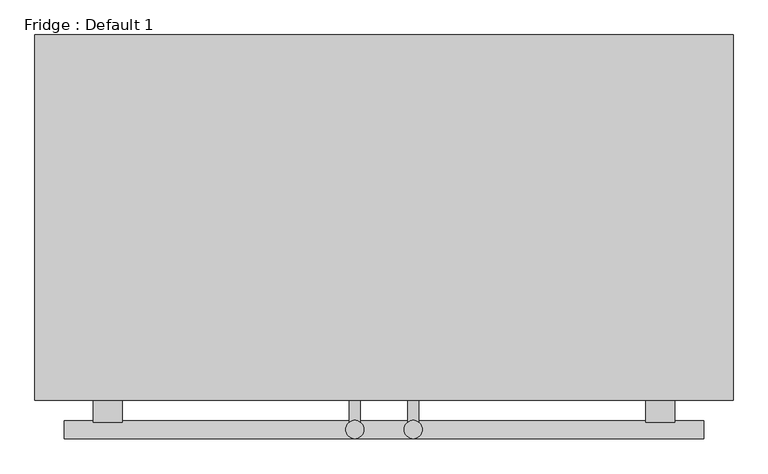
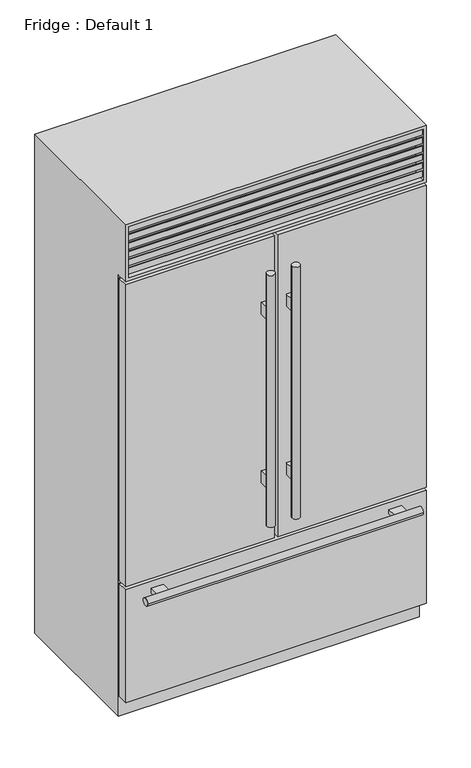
"""IFC4 building model written with IfcOpenShell, lengths in millimetres: proxy geometry, Fridge : Default 1."""

import ifcopenshell
import ifcopenshell.guid

model = None  # the IFC model being written
_history = None  # IfcOwnerHistory: only IFC2X3 demands one
_inside = {}  # id of a spatial element -> (the spatial element, [elements in it])
_under = {}  # id of a project, library or spatial element -> (it, [spatial elements below it])
_declared = {}  # id of a project -> (the project, [libraries it declares])
_typed = {}  # id of a type object -> (the type object, [elements of that type])
_made_of = {}  # id of a material, layer set ... -> (it, [elements and type objects made of it])


def new_model(schema):
    """Start an empty IFC model of exactly this schema.

    Asked for "IFC4X3", IfcOpenShell would pick the latest addendum, in which some entities
    have other attributes; the version numbers below select the first issue.
    IFC2X3 requires an IfcOwnerHistory on every rooted entity: one is made here for all.
    """
    global model, _history
    if schema == "IFC4X3":
        model = ifcopenshell.file(schema_version=(4, 3, 0, 0))
    else:
        model = ifcopenshell.file(schema=schema)
    _inside.clear()
    _under.clear()
    _declared.clear()
    _typed.clear()
    _made_of.clear()
    _history = None
    if model.schema == "IFC2X3":
        org = make("IfcOrganization", Name="unknown")
        user = make(
            "IfcPersonAndOrganization",
            ThePerson=make("IfcPerson", FamilyName="unknown"),
            TheOrganization=org,
        )
        app = make(
            "IfcApplication",
            ApplicationDeveloper=org,
            Version="unknown",
            ApplicationFullName="unknown",
            ApplicationIdentifier="unknown",
        )
        _history = make(
            "IfcOwnerHistory",
            OwningUser=user,
            OwningApplication=app,
            ChangeAction="ADDED",
            CreationDate=0,
        )
    return model


def make(cls, **values):
    """One entity of the class cls with the attributes given. An attribute that is None is left unset."""
    return model.create_entity(
        cls, **{name: value for name, value in values.items() if value is not None}
    )


def rooted(cls, **values):
    """An entity with a GlobalId (a new one), such as an element, a storey or a relation."""
    return make(cls, GlobalId=ifcopenshell.guid.new(), OwnerHistory=_history, **values)


def si_unit(unit_type, name, prefix=None):
    """IfcSIUnit, for example si_unit("LENGTHUNIT", "METRE", prefix="MILLI")."""
    return make("IfcSIUnit", UnitType=unit_type, Prefix=prefix, Name=name)


def assignment(units):
    """IfcUnitAssignment: the units of a project."""
    return None if units is None else make("IfcUnitAssignment", Units=units)


def point(xyz):
    """IfcCartesianPoint."""
    return None if xyz is None else make("IfcCartesianPoint", Coordinates=xyz)


def direction(xyz):
    """IfcDirection."""
    return None if xyz is None else make("IfcDirection", DirectionRatios=xyz)


def frame(location, z_axis=None, x_axis=None):
    """IfcAxis2Placement3D, a coordinate frame: its origin and axes. An axis left out is left unset."""
    return make(
        "IfcAxis2Placement3D",
        Location=point(location),
        Axis=direction(z_axis),
        RefDirection=direction(x_axis),
    )


def origin():
    """The frame at (0, 0, 0) with its axes left unset."""
    return frame((0.0, 0.0, 0.0))


def place(relative_to, where):
    """IfcLocalPlacement: puts the frame where relative to a parent placement (None: the world)."""
    return make(
        "IfcLocalPlacement", PlacementRelTo=relative_to, RelativePlacement=where
    )


def context(
    kind, dimensions, precision=None, world=None, true_north=None, identifier=None
):
    """IfcGeometricRepresentationContext, for example the 3D "Model" context."""
    return make(
        "IfcGeometricRepresentationContext",
        ContextIdentifier=identifier,
        ContextType=kind,
        CoordinateSpaceDimension=dimensions,
        Precision=precision,
        WorldCoordinateSystem=world,
        TrueNorth=true_north,
    )


def project(units=None, contexts=None):
    """IfcProject with its units and contexts."""
    return rooted(
        "IfcProject",
        Name="project",
        RepresentationContexts=contexts,
        UnitsInContext=assignment(units),
    )


def spatial(cls, under=None, at=None, **own):
    """A site, building, storey or space (cls), placed at a placement, below another one or the project."""
    s = rooted(cls, ObjectPlacement=at, **own)
    if under is not None:
        _under.setdefault(under.id(), (under, []))[1].append(s)
    return s


def polyline(points):
    """IfcPolyline through the points."""
    return make("IfcPolyline", Points=[point(p) for p in points])


def circle_curve(where, radius):
    """IfcCircle in the frame where."""
    return make("IfcCircle", Position=where, Radius=radius)


def ellipse_curve(where, semi_axis1, semi_axis2):
    """IfcEllipse in the frame where."""
    return make(
        "IfcEllipse", Position=where, SemiAxis1=semi_axis1, SemiAxis2=semi_axis2
    )


def outline(outer, holes=None, kind="AREA"):
    """IfcArbitraryClosedProfileDef: a profile drawn as a closed curve; with holes, ...WithVoids."""
    if holes is None:
        return make("IfcArbitraryClosedProfileDef", ProfileType=kind, OuterCurve=outer)
    return make(
        "IfcArbitraryProfileDefWithVoids",
        ProfileType=kind,
        OuterCurve=outer,
        InnerCurves=holes,
    )


def extrude(swept, where, along, depth):
    """IfcExtrudedAreaSolid: the profile swept, set in the frame where, extruded along a direction by depth."""
    return make(
        "IfcExtrudedAreaSolid",
        SweptArea=swept,
        Position=where,
        ExtrudedDirection=direction(along),
        Depth=depth,
    )


def faces_of(points, faces, orient=None, outer=None):
    """IfcFace entities. A face is a list of loops; a loop is a list of indices into points, from 0.

    orient and outer hold one flag for each loop. By default every Orientation is true, the
    first loop of a face is its IfcFaceOuterBound and the others are IfcFaceBound.
    """
    made = []
    for i, loops in enumerate(faces):
        bounds = []
        for j, loop in enumerate(loops):
            is_outer = j == 0 if outer is None else outer[i][j]
            bounds.append(
                make(
                    "IfcFaceOuterBound" if is_outer else "IfcFaceBound",
                    Bound=make("IfcPolyLoop", Polygon=[points[k] for k in loop]),
                    Orientation=True if orient is None else orient[i][j],
                )
            )
        made.append(make("IfcFace", Bounds=bounds))
    return made


def faceted_brep(points, faces, orient=None, outer=None, voids=None):
    """IfcFacetedBrep: a solid bounded by flat faces; with voids (closed shells), ...WithVoids."""
    shared = [point(p) for p in points]
    hull = make("IfcClosedShell", CfsFaces=faces_of(shared, faces, orient, outer))
    if voids is None:
        return make("IfcFacetedBrep", Outer=hull)
    return make(
        "IfcFacetedBrepWithVoids",
        Outer=hull,
        Voids=[
            make(cls, CfsFaces=faces_of(shared, fs, o, b)) for cls, fs, o, b in voids
        ],
    )


def shape(context_of_items, identifier, shape_type, items):
    """IfcShapeRepresentation: the items that make up one representation, for example the "Body"."""
    return make(
        "IfcShapeRepresentation",
        ContextOfItems=context_of_items,
        RepresentationIdentifier=identifier,
        RepresentationType=shape_type,
        Items=items,
    )


def source(mapping_origin, context_of_items, identifier, shape_type, items):
    """IfcRepresentationMap: a shape defined once, which mapped items show again and again."""
    return make(
        "IfcRepresentationMap",
        MappingOrigin=mapping_origin,
        MappedRepresentation=shape(context_of_items, identifier, shape_type, items),
    )


def transform(
    local_origin,
    x_axis=None,
    y_axis=None,
    z_axis=None,
    scale=None,
    scale2=None,
    scale3=None,
    uniform=True,
):
    """IfcCartesianTransformationOperator3D, or its non-uniform kind. x_axis, y_axis, z_axis: its Axis1, 2, 3."""
    if uniform:
        return make(
            "IfcCartesianTransformationOperator3D",
            Axis1=direction(x_axis),
            Axis2=direction(y_axis),
            LocalOrigin=point(local_origin),
            Scale=scale,
            Axis3=direction(z_axis),
        )
    return make(
        "IfcCartesianTransformationOperator3DnonUniform",
        Axis1=direction(x_axis),
        Axis2=direction(y_axis),
        LocalOrigin=point(local_origin),
        Scale=scale,
        Axis3=direction(z_axis),
        Scale2=scale2,
        Scale3=scale3,
    )


def mapped(mapping_source, mapping_target):
    """IfcMappedItem: shows the shape of a source again, moved by a transform."""
    return make(
        "IfcMappedItem", MappingSource=mapping_source, MappingTarget=mapping_target
    )


def made_of(thing, what):
    """Note that an element or type object is made of a material, layer set ...; save() writes the relation."""
    if what is not None:
        _made_of.setdefault(what.id(), (what, []))[1].append(thing)
    return thing


def element(
    cls,
    number,
    at=None,
    inside=None,
    cuts=None,
    type_object=None,
    material=None,
    context=None,
    identifier="Body",
    shape_type=None,
    held_by="IfcProductDefinitionShape",
    body=None,
    shapes=None,
    **own,
):
    """One element of the class cls, such as IfcWall. Its Tag is "e" and its number.

    at: its placement. inside: the storey or other place that contains it. cuts: it is an
    opening in that element (IfcRelVoidsElement). A single representation is given by context,
    identifier, shape_type and body (its items); several are given by shapes. held_by: the class
    of the entity that holds the representations. save() writes the other relations.
    """
    e = rooted(cls, Tag="e%d" % number, ObjectPlacement=at, **own)
    if body is not None:
        shapes = [shape(context, identifier, shape_type, body)]
    if shapes is not None:
        e.Representation = make(held_by, Representations=shapes)
    if inside is not None:
        _inside.setdefault(inside.id(), (inside, []))[1].append(e)
    if cuts is not None:
        rooted(
            "IfcRelVoidsElement", RelatingBuildingElement=cuts, RelatedOpeningElement=e
        )
    if type_object is not None:
        _typed.setdefault(type_object.id(), (type_object, []))[1].append(e)
    return made_of(e, material)


def aggregate(whole, parts):
    """IfcRelAggregates: a whole, such as a stair, and the parts it consists of."""
    return rooted("IfcRelAggregates", RelatingObject=whole, RelatedObjects=parts)


def save(model, path):
    """Write the relations noted so far, then the file.

    IfcRelAggregates (storeys below a building ...), IfcRelContainedInSpatialStructure (elements
    in a storey), IfcRelDefinesByType, IfcRelAssociatesMaterial and IfcRelDeclares: one each for
    every whole, place, type object, material and project.
    """
    for whole, parts in _under.values():
        aggregate(whole, parts)
    for where, things in _inside.values():
        rooted(
            "IfcRelContainedInSpatialStructure",
            RelatedElements=things,
            RelatingStructure=where,
        )
    for kind, things in _typed.values():
        rooted("IfcRelDefinesByType", RelatedObjects=things, RelatingType=kind)
    for what, things in _made_of.values():
        rooted("IfcRelAssociatesMaterial", RelatedObjects=things, RelatingMaterial=what)
    for by, libraries in _declared.values():
        rooted("IfcRelDeclares", RelatingContext=by, RelatedDefinitions=libraries)
    model.write(path)


def plane_surface(at):
    """IfcPlane: the flat surface through the origin of the frame at, square to its z axis."""
    return make("IfcPlane", Position=at)


def cylinder_surface(at, radius):
    """IfcCylindricalSurface: all points at the distance radius from the z axis of the frame at."""
    return make("IfcCylindricalSurface", Position=at, Radius=radius)


def advanced_brep(points, edges, surfaces, faces):
    """IfcAdvancedBrep: a solid bounded by faces that lie on surfaces and meet in shared edges.

    An edge is (start, end): straight between two places in points (the first is 0);
    or (start, end, curve); or (start, end, curve, False) where it runs against its curve.
    A face is (place in surfaces, loops), or (place, loops, False) where it looks against
    its surface's normal. A loop lists edges by number (the first is 1), with a minus sign
    where the edge is run from its end to its start. The first loop is the outer one.
    """
    corners = [point(p) for p in points]
    vertices = [make("IfcVertexPoint", VertexGeometry=c) for c in corners]
    made = []
    for start, end, *more in edges:
        made.append(
            make(
                "IfcEdgeCurve",
                EdgeStart=vertices[start],
                EdgeEnd=vertices[end],
                EdgeGeometry=more[0] if more else make("IfcPolyline", Points=[corners[start], corners[end]]),
                SameSense=more[1] if len(more) > 1 else True,
            )
        )
    hull = []
    for where, loops, *sense in faces:
        bounds = []
        for j, loop in enumerate(loops):
            ring = [make("IfcOrientedEdge", EdgeElement=made[abs(k) - 1], Orientation=k > 0) for k in loop]
            bounds.append(
                make(
                    "IfcFaceOuterBound" if j == 0 else "IfcFaceBound",
                    Bound=make("IfcEdgeLoop", EdgeList=ring),
                    Orientation=True,
                )
            )
        hull.append(make("IfcAdvancedFace", Bounds=bounds, FaceSurface=surfaces[where], SameSense=sense[0] if sense else True))
    return make("IfcAdvancedBrep", Outer=make("IfcClosedShell", CfsFaces=hull))


def fridge_default_1_27ad7765(model_context):
    return source(origin(), model_context, "Body", "SolidModel", [
        extrude(outline(polyline([(-608.08, -691.6452973), (-6.35, -691.6452973), (-6.35, -736.0952973), (-608.08, -736.0952973), (-608.08, -691.6452973)])), frame((0.0, 0.0, 584.2), z_axis=(0.0, 0.0, 1.0), x_axis=(1.0, 0.0, 0.0)), (0.0, 0.0, 1.0), 1292.225),
        extrude(outline(polyline([(6.35, -691.6452973), (608.08, -691.6452973), (608.08, -736.0952973), (6.35, -736.0952973), (6.35, -691.6452973)])), frame((0.0, 0.0, 584.2), z_axis=(0.0, 0.0, 1.0), x_axis=(1.0, 0.0, 0.0)), (0.0, 0.0, 1.0), 1292.225),
        extrude(outline(polyline([(-608.08, -691.6452973), (608.08, -691.6452973), (608.08, -736.0952973), (-608.08, -736.0952973), (-608.08, -691.6452973)])), frame((0.0, 0.0, 88.9), z_axis=(0.0, 0.0, 1.0), x_axis=(1.0, 0.0, 0.0)), (0.0, 0.0, 1.0), 482.6),
        faceted_brep([(608.08, -736.0952973, 2133.6), (-608.08, -736.0952973, 2133.6), (-608.08, -736.0952973, 1889.125), (608.08, -736.0952973, 1889.125), (595.38, -736.0952973, 2120.9), (595.38, -736.0952973, 1901.825), (-595.38, -736.0952973, 1901.825), (-595.38, -736.0952973, 2120.9), (608.08, -100.0, 2133.6), (-608.08, -100.0, 2133.6), (-608.08, -100.0, 0.0), (-608.08, -685.2952973, 0.0), (-608.08, -685.2952973, 1889.125), (608.08, -685.2952973, 1889.125), (608.08, -685.2952973, 0.0), (608.08, -100.0, 0.0), (-595.38, -685.2952973, 2120.9), (595.38, -685.2952973, 2120.9), (-595.38, -685.2952973, 1901.825), (595.38, -685.2952973, 1901.825)], [[[0, 1, 2, 3], [4, 5, 6, 7]], [[1, 0, 8, 9]], [[2, 1, 9, 10, 11, 12]], [[3, 2, 12, 13]], [[8, 0, 3, 13, 14, 15]], [[4, 7, 16, 17]], [[7, 6, 18, 16]], [[6, 5, 19, 18]], [[5, 4, 17, 19]], [[15, 14, 11, 10]], [[9, 8, 15, 10]], [[17, 16, 18, 19]], [[11, 14, 13, 12]]]),
        extrude(outline(polyline([(-685.2952973, 1901.825), (-732.9202973, 1914.5860803), (-732.9202973, 1939.9860803), (-729.7452973, 1939.9860803), (-729.7452973, 1917.1368938), (-685.2952973, 1905.2265522), (-685.2952973, 1901.825)])), frame((-595.38, 0.0, 0.0), z_axis=(1.0, 0.0, 0.0), x_axis=(0.0, 1.0, 0.0)), (0.0, 0.0, 1.0), 1190.76),
        extrude(outline(polyline([(-685.2952973, 1938.0077839), (-732.9202973, 1950.7688642), (-732.9202973, 1976.1688642), (-729.7452973, 1976.1688642), (-729.7452973, 1953.3196777), (-685.2952973, 1941.4093361), (-685.2952973, 1938.0077839)])), frame((-595.38, 0.0, 0.0), z_axis=(1.0, 0.0, 0.0), x_axis=(0.0, 1.0, 0.0)), (0.0, 0.0, 1.0), 1190.76),
        extrude(outline(polyline([(-685.2952973, 1974.1905679), (-732.9202973, 1986.9516482), (-732.9202973, 2012.3516482), (-729.7452973, 2012.3516482), (-729.7452973, 1989.5024616), (-685.2952973, 1977.59212), (-685.2952973, 1974.1905679)])), frame((-595.38, 0.0, 0.0), z_axis=(1.0, 0.0, 0.0), x_axis=(0.0, 1.0, 0.0)), (0.0, 0.0, 1.0), 1190.76),
        extrude(outline(polyline([(-685.2952973, 2010.3733518), (-732.9202973, 2023.1344321), (-732.9202973, 2048.5344321), (-729.7452973, 2048.5344321), (-729.7452973, 2025.6852456), (-685.2952973, 2013.774904), (-685.2952973, 2010.3733518)])), frame((-595.38, 0.0, 0.0), z_axis=(1.0, 0.0, 0.0), x_axis=(0.0, 1.0, 0.0)), (0.0, 0.0, 1.0), 1190.76),
        extrude(outline(polyline([(-685.2952973, 2046.5561358), (-732.9202973, 2059.3172161), (-732.9202973, 2084.7172161), (-729.7452973, 2084.7172161), (-729.7452973, 2061.8680295), (-685.2952973, 2049.9576879), (-685.2952973, 2046.5561358)])), frame((-595.38, 0.0, 0.0), z_axis=(1.0, 0.0, 0.0), x_axis=(0.0, 1.0, 0.0)), (0.0, 0.0, 1.0), 1190.76),
        extrude(outline(polyline([(-685.2952973, 2082.7389197), (-732.9202973, 2095.5), (-732.9202973, 2120.9), (-729.7452973, 2120.9), (-729.7452973, 2098.0508135), (-685.2952973, 2086.1404719), (-685.2952973, 2082.7389197)])), frame((-595.38, 0.0, 0.0), z_axis=(1.0, 0.0, 0.0), x_axis=(0.0, 1.0, 0.0)), (0.0, 0.0, 1.0), 1190.76),
        advanced_brep(
        [(-601.73, -685.2952973, 565.15), (-601.73, -691.6452973, 565.15), (-601.73, -691.6452973, 95.25), (-601.73, -685.2952973, 95.25), (-604.905, -691.6452973, 568.325), (-604.905, -685.2952973, 568.325), (-604.905, -685.2952973, 92.075), (-604.905, -691.6452973, 92.075), (601.73, -691.6452973, 95.25), (601.73, -685.2952973, 95.25), (604.905, -685.2952973, 92.075), (604.905, -691.6452973, 92.075), (601.73, -691.6452973, 565.15), (601.73, -685.2952973, 565.15), (604.905, -685.2952973, 568.325), (604.905, -691.6452973, 568.325)],
        [
            (0, 1),
            (1, 2),
            (2, 3),
            (3, 0),
            (4, 5, ellipse_curve(frame((-604.905, -688.4702973, 568.325), z_axis=(-0.7071067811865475, 0.0, -0.7071067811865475), x_axis=(-0.7071067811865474, 0.0, 0.7071067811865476)), 4.4901281, 3.175)),
            (5, 6),
            (6, 7, ellipse_curve(frame((-604.905, -688.4702973, 92.075), z_axis=(-0.7071067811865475, 0.0, 0.7071067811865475), x_axis=(0.7071067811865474, 0.0, 0.7071067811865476)), 4.4901281, 3.175)),
            (7, 4),
            (2, 8),
            (8, 9),
            (9, 3),
            (6, 10),
            (10, 11, ellipse_curve(frame((604.905, -688.4702973, 92.075), z_axis=(-0.7071067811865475, 0.0, -0.7071067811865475), x_axis=(-0.7071067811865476, 0.0, 0.7071067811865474)), 4.4901281, 3.175)),
            (11, 7),
            (8, 12),
            (12, 13),
            (13, 9),
            (10, 14),
            (14, 15, ellipse_curve(frame((604.905, -688.4702973, 568.325), z_axis=(0.7071067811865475, 0.0, -0.7071067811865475), x_axis=(-0.7071067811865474, 0.0, -0.7071067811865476)), 4.4901281, 3.175)),
            (15, 11),
            (12, 1),
            (0, 13),
            (5, 14),
            (4, 15),
        ],
        [
            plane_surface(frame((-601.73, -691.6452973, 565.15), z_axis=(1.0, 0.0, 0.0), x_axis=(0.0, 0.0, -1.0))),
            cylinder_surface(frame((-604.905, -688.4702973, 571.5), z_axis=(0.0, 0.0, 1.0), x_axis=(0.0, -1.0, 0.0)), 3.175),
            plane_surface(frame((-601.73, -691.6452973, 95.25), z_axis=(0.0, 0.0, 1.0), x_axis=(1.0, 0.0, 0.0))),
            cylinder_surface(frame((-608.08, -688.4702973, 92.075), z_axis=(-1.0, 0.0, 0.0), x_axis=(0.0, -1.0, 0.0)), 3.175),
            plane_surface(frame((601.73, -691.6452973, 95.25), z_axis=(-1.0, 0.0, 0.0), x_axis=(0.0, 0.0, 1.0))),
            cylinder_surface(frame((604.905, -688.4702973, 88.9), z_axis=(0.0, 0.0, -1.0), x_axis=(0.0, -1.0, 0.0)), 3.175),
            plane_surface(frame((601.73, -691.6452973, 565.15), z_axis=(0.0, 0.0, -1.0), x_axis=(-1.0, 0.0, 0.0))),
            plane_surface(frame((601.73, -685.2952973, 565.15), z_axis=(0.0, 1.0, 0.0), x_axis=(-1.0, 0.0, 0.0))),
            cylinder_surface(frame((608.08, -688.4702973, 568.325), z_axis=(1.0, 0.0, 0.0), x_axis=(0.0, -1.0, 0.0)), 3.175),
            plane_surface(frame((604.905, -691.6452973, 568.325), z_axis=(0.0, -1.0, 0.0), x_axis=(-1.0, 0.0, 0.0))),
        ],
        [
            (0, [[1, 2, 3, 4]]),
            (1, [[5, 6, 7, 8]]),
            (2, [[-3, 9, 10, 11]]),
            (3, [[-7, 12, 13, 14]]),
            (4, [[-10, 15, 16, 17]]),
            (5, [[-13, 18, 19, 20]]),
            (6, [[-16, 21, -1, 22]]),
            (7, [[23, -18, -12, -6], [-11, -17, -22, -4]]),
            (8, [[-19, -23, -5, 24]]),
            (9, [[-14, -20, -24, -8], [-21, -15, -9, -2]]),
        ],
    ),
        advanced_brep(
        [(12.7, -685.2952973, 1870.075), (12.7, -691.6452973, 1870.075), (12.7, -691.6452973, 590.55), (12.7, -685.2952973, 590.55), (9.525, -691.6452973, 1873.25), (9.525, -685.2952973, 1873.25), (9.525, -685.2952973, 587.375), (9.525, -691.6452973, 587.375), (601.73, -691.6452973, 590.55), (601.73, -685.2952973, 590.55), (604.905, -685.2952973, 587.375), (604.905, -691.6452973, 587.375), (601.73, -691.6452973, 1870.075), (601.73, -685.2952973, 1870.075), (604.905, -685.2952973, 1873.25), (604.905, -691.6452973, 1873.25)],
        [
            (0, 1),
            (1, 2),
            (2, 3),
            (3, 0),
            (4, 5, ellipse_curve(frame((9.525, -688.4702973, 1873.25), z_axis=(-0.7071067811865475, 0.0, -0.7071067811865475), x_axis=(-0.7071067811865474, 0.0, 0.7071067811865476)), 4.4901281, 3.175)),
            (5, 6),
            (6, 7, ellipse_curve(frame((9.525, -688.4702973, 587.375), z_axis=(-0.7071067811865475, 0.0, 0.7071067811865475), x_axis=(0.7071067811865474, 0.0, 0.7071067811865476)), 4.4901281, 3.175)),
            (7, 4),
            (2, 8),
            (8, 9),
            (9, 3),
            (6, 10),
            (10, 11, ellipse_curve(frame((604.905, -688.4702973, 587.375), z_axis=(-0.7071067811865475, 0.0, -0.7071067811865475), x_axis=(-0.7071067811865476, 0.0, 0.7071067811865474)), 4.4901281, 3.175)),
            (11, 7),
            (8, 12),
            (12, 13),
            (13, 9),
            (10, 14),
            (14, 15, ellipse_curve(frame((604.905, -688.4702973, 1873.25), z_axis=(0.7071067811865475, 0.0, -0.7071067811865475), x_axis=(-0.7071067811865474, 0.0, -0.7071067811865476)), 4.4901281, 3.175)),
            (15, 11),
            (12, 1),
            (0, 13),
            (5, 14),
            (4, 15),
        ],
        [
            plane_surface(frame((12.7, -691.6452973, 1870.075), z_axis=(1.0, 0.0, 0.0), x_axis=(0.0, 0.0, -1.0))),
            cylinder_surface(frame((9.525, -688.4702973, 1876.425), z_axis=(0.0, 0.0, 1.0), x_axis=(0.0, -1.0, 0.0)), 3.175),
            plane_surface(frame((12.7, -691.6452973, 590.55), z_axis=(0.0, 0.0, 1.0), x_axis=(1.0, 0.0, 0.0))),
            cylinder_surface(frame((6.35, -688.4702973, 587.375), z_axis=(-1.0, 0.0, 0.0), x_axis=(0.0, -1.0, 0.0)), 3.175),
            plane_surface(frame((601.73, -691.6452973, 590.55), z_axis=(-1.0, 0.0, 0.0), x_axis=(0.0, 0.0, 1.0))),
            cylinder_surface(frame((604.905, -688.4702973, 584.2), z_axis=(0.0, 0.0, -1.0), x_axis=(0.0, -1.0, 0.0)), 3.175),
            plane_surface(frame((601.73, -691.6452973, 1870.075), z_axis=(0.0, 0.0, -1.0), x_axis=(-1.0, 0.0, 0.0))),
            plane_surface(frame((601.73, -685.2952973, 1870.075), z_axis=(0.0, 1.0, 0.0), x_axis=(-1.0, 0.0, 0.0))),
            cylinder_surface(frame((608.08, -688.4702973, 1873.25), z_axis=(1.0, 0.0, 0.0), x_axis=(0.0, -1.0, 0.0)), 3.175),
            plane_surface(frame((604.905, -691.6452973, 1873.25), z_axis=(0.0, -1.0, 0.0), x_axis=(-1.0, 0.0, 0.0))),
        ],
        [
            (0, [[1, 2, 3, 4]]),
            (1, [[5, 6, 7, 8]]),
            (2, [[-3, 9, 10, 11]]),
            (3, [[-7, 12, 13, 14]]),
            (4, [[-10, 15, 16, 17]]),
            (5, [[-13, 18, 19, 20]]),
            (6, [[-16, 21, -1, 22]]),
            (7, [[23, -18, -12, -6], [-11, -17, -22, -4]]),
            (8, [[-19, -23, -5, 24]]),
            (9, [[-14, -20, -24, -8], [-21, -15, -9, -2]]),
        ],
    ),
        advanced_brep(
        [(-601.73, -685.2952973, 1870.075), (-601.73, -691.6452973, 1870.075), (-601.73, -691.6452973, 590.55), (-601.73, -685.2952973, 590.55), (-604.905, -691.6452973, 1873.25), (-604.905, -685.2952973, 1873.25), (-604.905, -685.2952973, 587.375), (-604.905, -691.6452973, 587.375), (-12.7, -691.6452973, 590.55), (-12.7, -685.2952973, 590.55), (-9.525, -685.2952973, 587.375), (-9.525, -691.6452973, 587.375), (-12.7, -691.6452973, 1870.075), (-12.7, -685.2952973, 1870.075), (-9.525, -685.2952973, 1873.25), (-9.525, -691.6452973, 1873.25)],
        [
            (0, 1),
            (1, 2),
            (2, 3),
            (3, 0),
            (4, 5, ellipse_curve(frame((-604.905, -688.4702973, 1873.25), z_axis=(-0.7071067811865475, 0.0, -0.7071067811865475), x_axis=(-0.7071067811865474, 0.0, 0.7071067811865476)), 4.4901281, 3.175)),
            (5, 6),
            (6, 7, ellipse_curve(frame((-604.905, -688.4702973, 587.375), z_axis=(-0.7071067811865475, 0.0, 0.7071067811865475), x_axis=(0.7071067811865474, 0.0, 0.7071067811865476)), 4.4901281, 3.175)),
            (7, 4),
            (2, 8),
            (8, 9),
            (9, 3),
            (6, 10),
            (10, 11, ellipse_curve(frame((-9.525, -688.4702973, 587.375), z_axis=(-0.7071067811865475, 0.0, -0.7071067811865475), x_axis=(-0.7071067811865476, 0.0, 0.7071067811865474)), 4.4901281, 3.175)),
            (11, 7),
            (8, 12),
            (12, 13),
            (13, 9),
            (10, 14),
            (14, 15, ellipse_curve(frame((-9.525, -688.4702973, 1873.25), z_axis=(0.7071067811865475, 0.0, -0.7071067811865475), x_axis=(-0.7071067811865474, 0.0, -0.7071067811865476)), 4.4901281, 3.175)),
            (15, 11),
            (12, 1),
            (0, 13),
            (5, 14),
            (4, 15),
        ],
        [
            plane_surface(frame((-601.73, -691.6452973, 1870.075), z_axis=(1.0, 0.0, 0.0), x_axis=(0.0, 0.0, -1.0))),
            cylinder_surface(frame((-604.905, -688.4702973, 1876.425), z_axis=(0.0, 0.0, 1.0), x_axis=(0.0, -1.0, 0.0)), 3.175),
            plane_surface(frame((-601.73, -691.6452973, 590.55), z_axis=(0.0, 0.0, 1.0), x_axis=(1.0, 0.0, 0.0))),
            cylinder_surface(frame((-608.08, -688.4702973, 587.375), z_axis=(-1.0, 0.0, 0.0), x_axis=(0.0, -1.0, 0.0)), 3.175),
            plane_surface(frame((-12.7, -691.6452973, 590.55), z_axis=(-1.0, 0.0, 0.0), x_axis=(0.0, 0.0, 1.0))),
            cylinder_surface(frame((-9.525, -688.4702973, 584.2), z_axis=(0.0, 0.0, -1.0), x_axis=(0.0, -1.0, 0.0)), 3.175),
            plane_surface(frame((-12.7, -691.6452973, 1870.075), z_axis=(0.0, 0.0, -1.0), x_axis=(-1.0, 0.0, 0.0))),
            plane_surface(frame((-12.7, -685.2952973, 1870.075), z_axis=(0.0, 1.0, 0.0), x_axis=(-1.0, 0.0, 0.0))),
            cylinder_surface(frame((-6.35, -688.4702973, 1873.25), z_axis=(1.0, 0.0, 0.0), x_axis=(0.0, -1.0, 0.0)), 3.175),
            plane_surface(frame((-9.525, -691.6452973, 1873.25), z_axis=(0.0, -1.0, 0.0), x_axis=(-1.0, 0.0, 0.0))),
        ],
        [
            (0, [[1, 2, 3, 4]]),
            (1, [[5, 6, 7, 8]]),
            (2, [[-3, 9, 10, 11]]),
            (3, [[-7, 12, 13, 14]]),
            (4, [[-10, 15, 16, 17]]),
            (5, [[-13, 18, 19, 20]]),
            (6, [[-16, 21, -1, 22]]),
            (7, [[23, -18, -12, -6], [-11, -17, -22, -4]]),
            (8, [[-19, -23, -5, 24]]),
            (9, [[-14, -20, -24, -8], [-21, -15, -9, -2]]),
        ],
    ),
        advanced_brep(
        [(-455.68, -736.0952973, 542.925), (-455.68, -736.0952973, 523.875), (-506.48, -736.0952973, 523.875), (-506.48, -736.0952973, 542.925), (455.68, -736.0952973, 542.925), (506.48, -736.0952973, 542.925), (506.48, -736.0952973, 523.875), (455.68, -736.0952973, 523.875), (-455.68, -774.5694931, 542.925), (-455.68, -771.3944931, 533.4), (-455.68, -774.5694931, 523.875), (-506.48, -774.5694931, 523.875), (-506.48, -771.3944931, 533.4), (-506.48, -774.5694931, 542.925), (455.68, -774.5694931, 542.925), (506.48, -774.5694931, 542.925), (506.48, -771.3944931, 533.4), (506.48, -774.5694931, 523.875), (455.68, -774.5694931, 523.875), (455.68, -771.3944931, 533.4), (557.28, -803.1444931, 533.4), (557.28, -771.3944931, 533.4), (-557.28, -803.1444931, 533.4), (-557.28, -771.3944931, 533.4)],
        [
            (0, 1),
            (1, 2),
            (2, 3),
            (3, 0),
            (4, 5),
            (5, 6),
            (6, 7),
            (7, 4),
            (0, 8),
            (8, 9, circle_curve(frame((-455.68, -787.2694931, 533.4), z_axis=(-1.0, 0.0, 0.0), x_axis=(0.0, 1.0, 0.0)), 15.875)),
            (9, 10, circle_curve(frame((-455.68, -787.2694931, 533.4), z_axis=(-1.0, 0.0, 0.0), x_axis=(0.0, 1.0, 0.0)), 15.875)),
            (10, 1),
            (10, 11),
            (11, 2),
            (11, 12, circle_curve(frame((-506.48, -787.2694931, 533.4), z_axis=(1.0, 0.0, 0.0), x_axis=(0.0, 1.0, 0.0)), 15.875)),
            (12, 13, circle_curve(frame((-506.48, -787.2694931, 533.4), z_axis=(1.0, 0.0, 0.0), x_axis=(0.0, 1.0, 0.0)), 15.875)),
            (13, 3),
            (13, 8),
            (4, 14),
            (14, 15),
            (15, 5),
            (15, 16, circle_curve(frame((506.48, -787.2694931, 533.4), z_axis=(-1.0, 0.0, 0.0), x_axis=(0.0, 1.0, 0.0)), 15.875)),
            (16, 17, circle_curve(frame((506.48, -787.2694931, 533.4), z_axis=(-1.0, 0.0, 0.0), x_axis=(0.0, 1.0, 0.0)), 15.875)),
            (17, 6),
            (17, 18),
            (18, 7),
            (18, 19, circle_curve(frame((455.68, -787.2694931, 533.4), z_axis=(1.0, 0.0, 0.0), x_axis=(0.0, 1.0, 0.0)), 15.875)),
            (19, 14, circle_curve(frame((455.68, -787.2694931, 533.4), z_axis=(1.0, 0.0, 0.0), x_axis=(0.0, 1.0, 0.0)), 15.875)),
            (20, 21, circle_curve(frame((557.28, -787.2694931, 533.4), z_axis=(1.0, 0.0, 0.0), x_axis=(0.0, 1.0, 0.0)), 15.875)),
            (21, 20, circle_curve(frame((557.28, -787.2694931, 533.4), z_axis=(1.0, 0.0, 0.0), x_axis=(0.0, 1.0, 0.0)), 15.875)),
            (22, 23, circle_curve(frame((-557.28, -787.2694931, 533.4), z_axis=(-1.0, 0.0, 0.0), x_axis=(0.0, 1.0, 0.0)), 15.875)),
            (23, 22, circle_curve(frame((-557.28, -787.2694931, 533.4), z_axis=(-1.0, 0.0, 0.0), x_axis=(0.0, 1.0, 0.0)), 15.875)),
            (20, 22),
            (23, 12),
            (9, 19),
            (16, 21),
        ],
        [
            plane_surface(frame((-455.68, -736.0952973, 542.925), z_axis=(0.0, 1.0, 0.0), x_axis=(0.0, 0.0, -1.0))),
            plane_surface(frame((-455.68, -736.0952973, 542.925), z_axis=(1.0, 0.0, 0.0), x_axis=(0.0, -1.0, 0.0))),
            plane_surface(frame((-455.68, -736.0952973, 523.875), z_axis=(0.0, 0.0, -1.0), x_axis=(0.0, -1.0, 0.0))),
            plane_surface(frame((-506.48, -736.0952973, 523.875), z_axis=(-1.0, 0.0, 0.0), x_axis=(0.0, -1.0, 0.0))),
            plane_surface(frame((-506.48, -736.0952973, 542.925), z_axis=(0.0, 0.0, 1.0), x_axis=(0.0, -1.0, 0.0))),
            plane_surface(frame((455.68, -736.0952973, 542.925), z_axis=(0.0, 0.0, 1.0), x_axis=(0.0, -1.0, 0.0))),
            plane_surface(frame((506.48, -736.0952973, 542.925), z_axis=(1.0, 0.0, 0.0), x_axis=(0.0, -1.0, 0.0))),
            plane_surface(frame((506.48, -736.0952973, 523.875), z_axis=(0.0, 0.0, -1.0), x_axis=(0.0, -1.0, 0.0))),
            plane_surface(frame((455.68, -736.0952973, 523.875), z_axis=(-1.0, 0.0, 0.0), x_axis=(0.0, -1.0, 0.0))),
            plane_surface(frame((557.28, -771.3944931, 533.4), z_axis=(1.0, 0.0, 0.0), x_axis=(0.0, 0.0, 1.0))),
            plane_surface(frame((-557.28, -771.3944931, 533.4), z_axis=(-1.0, 0.0, 0.0), x_axis=(0.0, 0.0, -1.0))),
            cylinder_surface(frame((-557.28, -787.2694931, 533.4), z_axis=(1.0, 0.0, 0.0), x_axis=(0.0, 1.0, 0.0)), 15.875),
        ],
        [
            (0, [[1, 2, 3, 4]]),
            (0, [[5, 6, 7, 8]]),
            (1, [[-1, 9, 10, 11, 12]]),
            (2, [[-2, -12, 13, 14]]),
            (3, [[-3, -14, 15, 16, 17]]),
            (4, [[-4, -17, 18, -9]]),
            (5, [[-5, 19, 20, 21]]),
            (6, [[-6, -21, 22, 23, 24]]),
            (7, [[-7, -24, 25, 26]]),
            (8, [[-8, -26, 27, 28, -19]]),
            (9, [[29, 30]]),
            (10, [[31, 32]]),
            (11, [[-29, 33, -32, 34, -15, -13, -11, 35, -27, -25, -23, 36]]),
            (11, [[-30, -36, -22, -20, -28, -35, -10, -18, -16, -34, -31, -33]]),
        ],
    ),
        advanced_brep(
        [(34.925, -787.2694931, 1762.125), (66.675, -787.2694931, 1762.125), (34.925, -787.2694931, 685.8), (66.675, -787.2694931, 685.8), (60.325, -774.5694931, 1558.925), (60.325, -774.5694931, 1609.725), (41.275, -774.5694931, 1609.725), (41.275, -774.5694931, 1558.925), (60.325, -774.5694931, 838.2), (60.325, -774.5694931, 889.0), (41.275, -774.5694931, 889.0), (41.275, -774.5694931, 838.2), (60.325, -736.0952973, 1609.725), (60.325, -736.0952973, 1558.925), (41.275, -736.0952973, 1558.925), (41.275, -736.0952973, 1609.725), (60.325, -736.0952973, 889.0), (60.325, -736.0952973, 838.2), (41.275, -736.0952973, 838.2), (41.275, -736.0952973, 889.0)],
        [
            (0, 1, circle_curve(frame((50.8, -787.2694931, 1762.125), z_axis=(0.0, 0.0, 1.0), x_axis=(1.0, 0.0, 0.0)), 15.875)),
            (1, 0, circle_curve(frame((50.8, -787.2694931, 1762.125), z_axis=(0.0, 0.0, 1.0), x_axis=(1.0, 0.0, 0.0)), 15.875)),
            (2, 3, circle_curve(frame((50.8, -787.2694931, 685.8), z_axis=(0.0, 0.0, -1.0), x_axis=(1.0, 0.0, 0.0)), 15.875)),
            (3, 2, circle_curve(frame((50.8, -787.2694931, 685.8), z_axis=(0.0, 0.0, -1.0), x_axis=(1.0, 0.0, 0.0)), 15.875)),
            (0, 2),
            (3, 1),
            (4, 5),
            (5, 6, circle_curve(frame((50.8, -787.2694931, 1609.725), z_axis=(0.0, 0.0, 1.0), x_axis=(1.0, 0.0, 0.0)), 15.875)),
            (6, 7),
            (7, 4, circle_curve(frame((50.8, -787.2694931, 1558.925), z_axis=(0.0, 0.0, -1.0), x_axis=(1.0, 0.0, 0.0)), 15.875)),
            (8, 9),
            (9, 10, circle_curve(frame((50.8, -787.2694931, 889.0), z_axis=(0.0, 0.0, 1.0), x_axis=(1.0, 0.0, 0.0)), 15.875)),
            (10, 11),
            (11, 8, circle_curve(frame((50.8, -787.2694931, 838.2), z_axis=(0.0, 0.0, -1.0), x_axis=(1.0, 0.0, 0.0)), 15.875)),
            (12, 13),
            (13, 14),
            (14, 15),
            (15, 12),
            (16, 17),
            (17, 18),
            (18, 19),
            (19, 16),
            (12, 5),
            (4, 13),
            (7, 14),
            (6, 15),
            (16, 9),
            (8, 17),
            (11, 18),
            (10, 19),
        ],
        [
            plane_surface(frame((66.675, -787.2694931, 1762.125), z_axis=(0.0, 0.0, 1.0), x_axis=(0.0, 1.0, 0.0))),
            plane_surface(frame((66.675, -787.2694931, 685.8), z_axis=(0.0, 0.0, -1.0), x_axis=(0.0, -1.0, 0.0))),
            cylinder_surface(frame((50.8, -787.2694931, 685.8), z_axis=(0.0, 0.0, 1.0), x_axis=(1.0, 0.0, 0.0)), 15.875),
            plane_surface(frame((60.325, -736.0952973, 1609.725), z_axis=(0.0, 1.0, 0.0), x_axis=(0.0, 0.0, -1.0))),
            plane_surface(frame((60.325, -736.0952973, 1609.725), z_axis=(1.0, 0.0, 0.0), x_axis=(0.0, -1.0, 0.0))),
            plane_surface(frame((60.325, -736.0952973, 1558.925), z_axis=(0.0, 0.0, -1.0), x_axis=(0.0, -1.0, 0.0))),
            plane_surface(frame((41.275, -736.0952973, 1558.925), z_axis=(-1.0, 0.0, 0.0), x_axis=(0.0, -1.0, 0.0))),
            plane_surface(frame((41.275, -736.0952973, 1609.725), z_axis=(0.0, 0.0, 1.0), x_axis=(0.0, -1.0, 0.0))),
            plane_surface(frame((60.325, -736.0952973, 889.0), z_axis=(1.0, 0.0, 0.0), x_axis=(0.0, -1.0, 0.0))),
            plane_surface(frame((60.325, -736.0952973, 838.2), z_axis=(0.0, 0.0, -1.0), x_axis=(0.0, -1.0, 0.0))),
            plane_surface(frame((41.275, -736.0952973, 838.2), z_axis=(-1.0, 0.0, 0.0), x_axis=(0.0, -1.0, 0.0))),
            plane_surface(frame((41.275, -736.0952973, 889.0), z_axis=(0.0, 0.0, 1.0), x_axis=(0.0, -1.0, 0.0))),
        ],
        [
            (0, [[1, 2]]),
            (1, [[3, 4]]),
            (2, [[-1, 5, -4, 6]]),
            (2, [[-2, -6, -3, -5], [7, 8, 9, 10], [11, 12, 13, 14]]),
            (3, [[15, 16, 17, 18]]),
            (3, [[19, 20, 21, 22]]),
            (4, [[-15, 23, -7, 24]]),
            (5, [[-16, -24, -10, 25]]),
            (6, [[-17, -25, -9, 26]]),
            (7, [[-18, -26, -8, -23]]),
            (8, [[-19, 27, -11, 28]]),
            (9, [[-20, -28, -14, 29]]),
            (10, [[-21, -29, -13, 30]]),
            (11, [[-22, -30, -12, -27]]),
        ],
    ),
        advanced_brep(
        [(-41.275, -736.0952973, 1609.725), (-41.275, -736.0952973, 1558.925), (-60.325, -736.0952973, 1558.925), (-60.325, -736.0952973, 1609.725), (-41.275, -736.0952973, 889.0), (-41.275, -736.0952973, 838.2), (-60.325, -736.0952973, 838.2), (-60.325, -736.0952973, 889.0), (-41.275, -774.5694931, 1609.725), (-41.275, -774.5694931, 1558.925), (-60.325, -774.5694931, 1558.925), (-60.325, -774.5694931, 1609.725), (-41.275, -774.5694931, 889.0), (-41.275, -774.5694931, 838.2), (-60.325, -774.5694931, 838.2), (-60.325, -774.5694931, 889.0), (-66.675, -787.2694931, 1762.125), (-34.925, -787.2694931, 1762.125), (-66.675, -787.2694931, 685.8), (-34.925, -787.2694931, 685.8)],
        [
            (0, 1),
            (1, 2),
            (2, 3),
            (3, 0),
            (4, 5),
            (5, 6),
            (6, 7),
            (7, 4),
            (0, 8),
            (8, 9),
            (9, 1),
            (9, 10, circle_curve(frame((-50.8, -787.2694931, 1558.925), z_axis=(0.0, 0.0, 1.0), x_axis=(1.0, 0.0, 0.0)), 15.875)),
            (10, 2),
            (10, 11),
            (11, 3),
            (11, 8, circle_curve(frame((-50.8, -787.2694931, 1609.725), z_axis=(0.0, 0.0, -1.0), x_axis=(1.0, 0.0, 0.0)), 15.875)),
            (4, 12),
            (12, 13),
            (13, 5),
            (13, 14, circle_curve(frame((-50.8, -787.2694931, 838.2), z_axis=(0.0, 0.0, 1.0), x_axis=(1.0, 0.0, 0.0)), 15.875)),
            (14, 6),
            (14, 15),
            (15, 7),
            (15, 12, circle_curve(frame((-50.8, -787.2694931, 889.0), z_axis=(0.0, 0.0, -1.0), x_axis=(1.0, 0.0, 0.0)), 15.875)),
            (16, 17, circle_curve(frame((-50.8, -787.2694931, 1762.125), z_axis=(0.0, 0.0, 1.0), x_axis=(1.0, 0.0, 0.0)), 15.875)),
            (17, 16, circle_curve(frame((-50.8, -787.2694931, 1762.125), z_axis=(0.0, 0.0, 1.0), x_axis=(1.0, 0.0, 0.0)), 15.875)),
            (18, 19, circle_curve(frame((-50.8, -787.2694931, 685.8), z_axis=(0.0, 0.0, -1.0), x_axis=(1.0, 0.0, 0.0)), 15.875)),
            (19, 18, circle_curve(frame((-50.8, -787.2694931, 685.8), z_axis=(0.0, 0.0, -1.0), x_axis=(1.0, 0.0, 0.0)), 15.875)),
            (16, 18),
            (19, 17),
        ],
        [
            plane_surface(frame((-41.275, -736.0952973, 1609.725), z_axis=(0.0, 1.0, 0.0), x_axis=(0.0, 0.0, -1.0))),
            plane_surface(frame((-41.275, -736.0952973, 1609.725), z_axis=(1.0, 0.0, 0.0), x_axis=(0.0, -1.0, 0.0))),
            plane_surface(frame((-41.275, -736.0952973, 1558.925), z_axis=(0.0, 0.0, -1.0), x_axis=(0.0, -1.0, 0.0))),
            plane_surface(frame((-60.325, -736.0952973, 1558.925), z_axis=(-1.0, 0.0, 0.0), x_axis=(0.0, -1.0, 0.0))),
            plane_surface(frame((-60.325, -736.0952973, 1609.725), z_axis=(0.0, 0.0, 1.0), x_axis=(0.0, -1.0, 0.0))),
            plane_surface(frame((-41.275, -736.0952973, 889.0), z_axis=(1.0, 0.0, 0.0), x_axis=(0.0, -1.0, 0.0))),
            plane_surface(frame((-41.275, -736.0952973, 838.2), z_axis=(0.0, 0.0, -1.0), x_axis=(0.0, -1.0, 0.0))),
            plane_surface(frame((-60.325, -736.0952973, 838.2), z_axis=(-1.0, 0.0, 0.0), x_axis=(0.0, -1.0, 0.0))),
            plane_surface(frame((-60.325, -736.0952973, 889.0), z_axis=(0.0, 0.0, 1.0), x_axis=(0.0, -1.0, 0.0))),
            plane_surface(frame((-34.925, -787.2694931, 1762.125), z_axis=(0.0, 0.0, 1.0), x_axis=(0.0, 1.0, 0.0))),
            plane_surface(frame((-34.925, -787.2694931, 685.8), z_axis=(0.0, 0.0, -1.0), x_axis=(0.0, -1.0, 0.0))),
            cylinder_surface(frame((-50.8, -787.2694931, 685.8), z_axis=(0.0, 0.0, 1.0), x_axis=(1.0, 0.0, 0.0)), 15.875),
        ],
        [
            (0, [[1, 2, 3, 4]]),
            (0, [[5, 6, 7, 8]]),
            (1, [[-1, 9, 10, 11]]),
            (2, [[-2, -11, 12, 13]]),
            (3, [[-3, -13, 14, 15]]),
            (4, [[-4, -15, 16, -9]]),
            (5, [[-5, 17, 18, 19]]),
            (6, [[-6, -19, 20, 21]]),
            (7, [[-7, -21, 22, 23]]),
            (8, [[-8, -23, 24, -17]]),
            (9, [[25, 26]]),
            (10, [[27, 28]]),
            (11, [[-25, 29, -28, 30]]),
            (11, [[-26, -30, -27, -29], [-10, -16, -14, -12], [-18, -24, -22, -20]]),
        ],
    ),
    ])


if __name__ == "__main__":
    model = new_model("IFC4")
    model_context = context("Model", 3, world=origin())
    ifc_project = project(units=[si_unit("LENGTHUNIT", "METRE", prefix="MILLI")], contexts=[model_context])
    site = spatial("IfcSite", under=ifc_project)
    building = spatial("IfcBuilding", under=site)
    placement = place(None, origin())
    fridge_default_1_shape = fridge_default_1_27ad7765(model_context)
    element("IfcBuildingElementProxy", 1, Name="Fridge : Default 1", ObjectType="Fridge : Default 1", at=placement, inside=building, context=model_context, shape_type="MappedRepresentation", body=[
        mapped(fridge_default_1_shape, transform((0.0, 0.0, 0.0), x_axis=(1.0, 0.0, 0.0), y_axis=(0.0, 1.0, 0.0), z_axis=(0.0, 0.0, 1.0))),
    ])
    save(model, "model.ifc")
